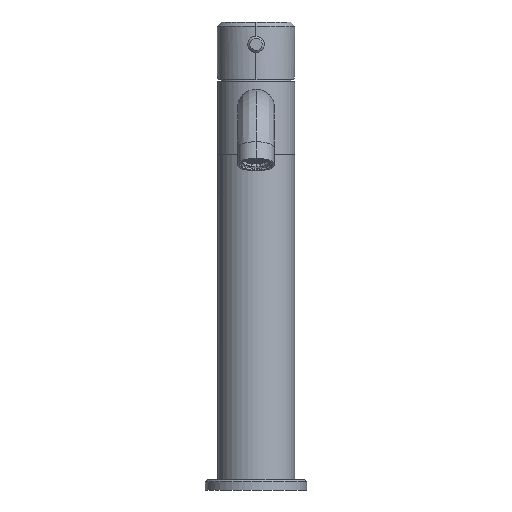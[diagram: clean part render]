
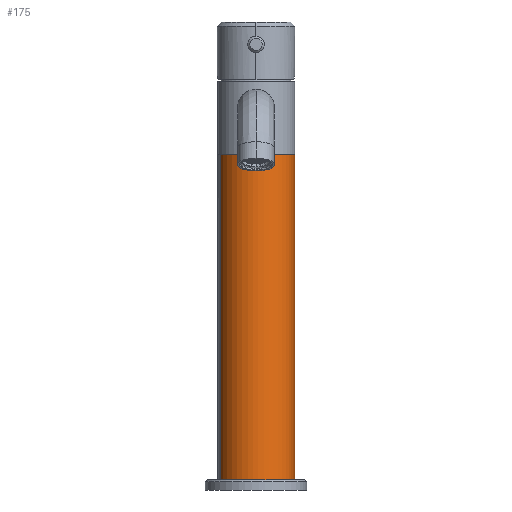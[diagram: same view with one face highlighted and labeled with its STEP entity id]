
A CAD part, front view. The second image highlights one B-rep face of the part: STEP entity #175.
In plain terms, the highlighted cylindrical face has radius 19 mm (diameter 38 mm), a partial arc.
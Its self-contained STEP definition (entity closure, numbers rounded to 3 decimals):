
#175=ADVANCED_FACE('',(#578),#7373,.T.);
#578=FACE_OUTER_BOUND('',#984,.T.);
#984=EDGE_LOOP('',(#1431,#1432,#1433,#1434));
#1431=ORIENTED_EDGE('',*,*,#3388,.F.);
#1432=ORIENTED_EDGE('',*,*,#3393,.T.);
#1433=ORIENTED_EDGE('',*,*,#3390,.F.);
#1434=ORIENTED_EDGE('',*,*,#3394,.F.);
#3388=EDGE_CURVE('',#6096,#6097,#4734,.T.);
#3390=EDGE_CURVE('',#6098,#6095,#4735,.T.);
#3393=EDGE_CURVE('',#6096,#6095,#5754,.T.);
#3394=EDGE_CURVE('',#6097,#6098,#5755,.T.);
#4734=B_SPLINE_CURVE_WITH_KNOTS('',1,(#8535,#8536),.UNSPECIFIED.,.F.,.F.,
(2,2),(0.,160.),.UNSPECIFIED.);
#4735=B_SPLINE_CURVE_WITH_KNOTS('',1,(#8542,#8543),.UNSPECIFIED.,.F.,.F.,
(2,2),(0.,160.),.UNSPECIFIED.);
#5754=(
BOUNDED_CURVE()
B_SPLINE_CURVE(2,(#8554,#8555,#8556,#8557,#8558),.UNSPECIFIED.,.F.,.F.)
B_SPLINE_CURVE_WITH_KNOTS((3,2,3),(0.,38.,76.),.UNSPECIFIED.)
CURVE()
GEOMETRIC_REPRESENTATION_ITEM()
RATIONAL_B_SPLINE_CURVE((1.,0.707,1.,0.707,1.))
REPRESENTATION_ITEM('')
);
#5755=(
BOUNDED_CURVE()
B_SPLINE_CURVE(2,(#8559,#8560,#8561,#8562,#8563),.UNSPECIFIED.,.F.,.F.)
B_SPLINE_CURVE_WITH_KNOTS((3,2,3),(-76.,-38.,0.),.UNSPECIFIED.)
CURVE()
GEOMETRIC_REPRESENTATION_ITEM()
RATIONAL_B_SPLINE_CURVE((1.,0.707,1.,0.707,1.))
REPRESENTATION_ITEM('')
);
#6095=VERTEX_POINT('',#8524);
#6096=VERTEX_POINT('',#8525);
#6097=VERTEX_POINT('',#8526);
#6098=VERTEX_POINT('',#8527);
#7373=CYLINDRICAL_SURFACE('',#7597,19.);
#7597=AXIS2_PLACEMENT_3D('',#8523,#7953,$);
#7953=DIRECTION('',(0.,0.,1.));
#8523=CARTESIAN_POINT('',(0.,0.,85.));
#8524=CARTESIAN_POINT('',(17.551,7.278,5.));
#8525=CARTESIAN_POINT('',(-17.551,-7.278,5.));
#8526=CARTESIAN_POINT('',(-17.551,-7.278,165.));
#8527=CARTESIAN_POINT('',(17.551,7.278,165.));
#8535=CARTESIAN_POINT('',(-17.551,-7.278,5.));
#8536=CARTESIAN_POINT('',(-17.551,-7.278,165.));
#8542=CARTESIAN_POINT('',(17.551,7.278,165.));
#8543=CARTESIAN_POINT('',(17.551,7.278,5.));
#8554=CARTESIAN_POINT('',(-17.551,-7.278,5.));
#8555=CARTESIAN_POINT('',(-10.273,-24.829,5.));
#8556=CARTESIAN_POINT('',(7.278,-17.551,5.));
#8557=CARTESIAN_POINT('',(24.829,-10.273,5.));
#8558=CARTESIAN_POINT('',(17.551,7.278,5.));
#8559=CARTESIAN_POINT('',(-17.551,-7.278,165.));
#8560=CARTESIAN_POINT('',(-10.273,-24.829,165.));
#8561=CARTESIAN_POINT('',(7.278,-17.551,165.));
#8562=CARTESIAN_POINT('',(24.829,-10.273,165.));
#8563=CARTESIAN_POINT('',(17.551,7.278,165.));
